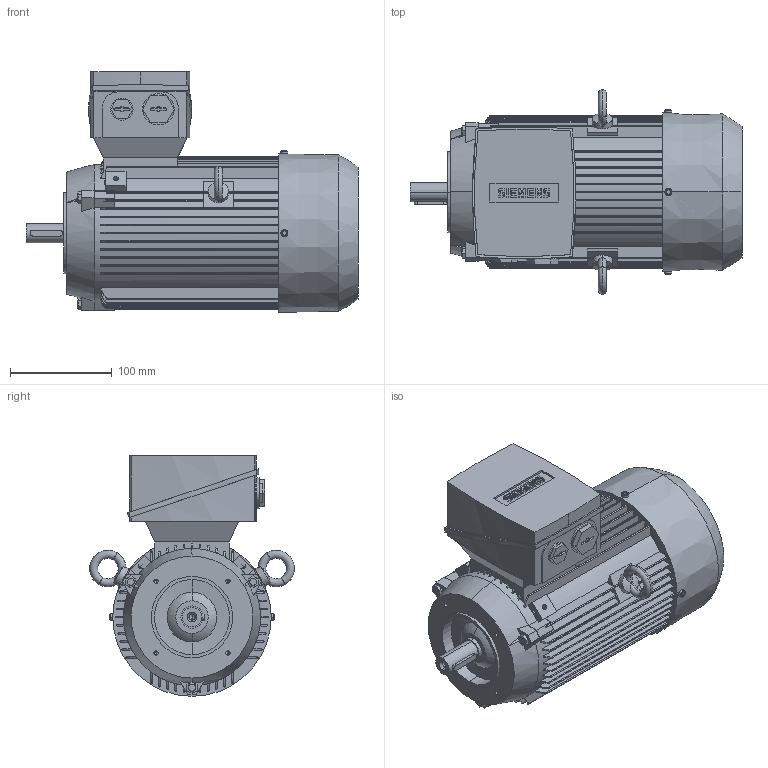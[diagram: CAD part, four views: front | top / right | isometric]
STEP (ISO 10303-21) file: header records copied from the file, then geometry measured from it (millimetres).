
FILE_DESCRIPTION(('STEP AP214'),'1');
FILE_NAME('cctmp_EC83226B-BEE5-4E5B-9B3C-236C088AAF6E_2021_11_10_10_22_38_9..stp','2021-11-10T09:22:38',('SIEMENS A&D'),('CADClick - www.CADClick.com'),'Spatial InterOp 3D',' ','unknown authorization');
FILE_SCHEMA(('AUTOMOTIVE_DESIGN'));
Length unit declared in the file: millimetre
Products named in the file (1): 2021_11_10__10-22-38-009
Bounding box: 327 x 201.67 x 237 mm (x, y, z)
Volume: 5453866.7 mm3; surface area: 342084.5 mm2
Topology: 1 solids, 1 shells, 748 faces, 2103 edges, 1368 vertices
Faces by surface type: plane 457, cylinder 197, torus 58, cone 32, sphere 4
Entity records: 32172 total; most frequent: CARTESIAN_POINT 6848, ORIENTED_EDGE 4150, DIRECTION 3939, EDGE_CURVE 2075, VERTEX_POINT 1368, AXIS2_PLACEMENT_3D 1314, LINE 1311, VECTOR 1311
